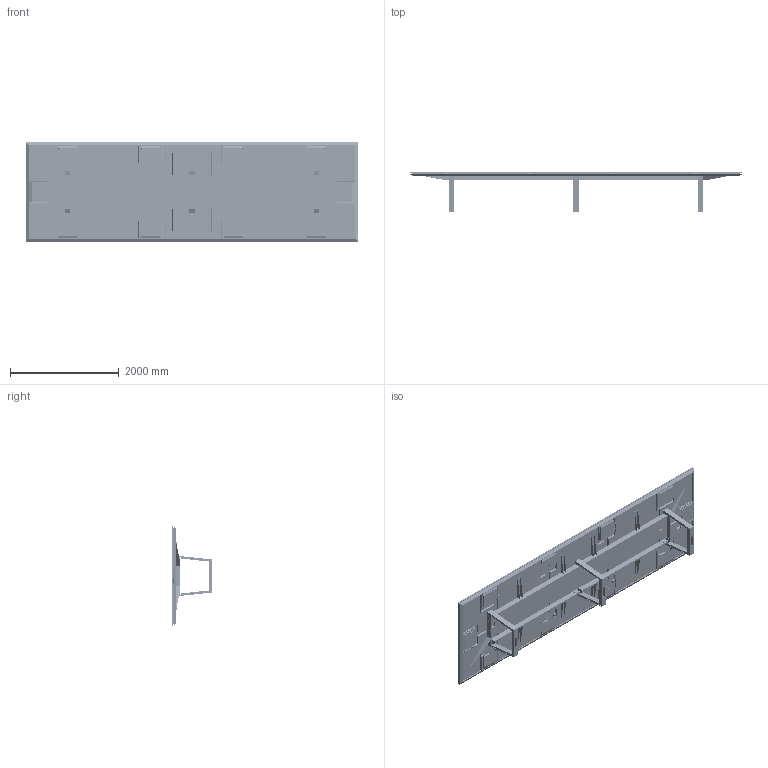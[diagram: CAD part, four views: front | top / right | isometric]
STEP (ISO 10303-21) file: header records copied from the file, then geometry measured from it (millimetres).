
FILE_DESCRIPTION(/* description */ ('','CAx-IF Rec.Pracs.---Representation and Presentation of Product Manufacturing Information (PMI)---4.0---2014-10-13'),/* implementation_level */ '2;1');
FILE_NAME(/* name */ 'TABLE_IMPRESS 6.stp',/* time_stamp */ '2024-12-07T16:03:47-05:00',/* author */ ('mbowman'),/* organization */ (''),/* preprocessor_version */ 'ST-DEVELOPER v19.2',/* originating_system */ 'Autodesk Inventor 2023',/* authorisation */ '');
FILE_SCHEMA (('AP242_MANAGED_MODEL_BASED_3D_ENGINEERING_MIM_LF { 1 0 10303 442 1 1 4 }'));
Products named in the file (62): IMPRESS^TABLE 6_4 PC TOP PWR DRAWERS-SOLID ASSEMBLY; IMPRESS^TABLE 6_4 PC TOP PWR DRAWERS-TOP PARTS SOLID; IMPRESS^16-SHORT-ASHLEY210-ASSEMBLY; R755-305-RIGHT; R755-305-LEFT; IMPRESS^16-SHORT-ASHLEY210-ASSEMBLY_1; R755-305-RIGHT_1; R755-305-LEFT_1; IMPRESS^16-SHORT-ASHLEY210-ASSEMBLY_2; R755-305-RIGHT_2; R755-305-LEFT_2; IMPRESS^16-SHORT-ASHLEY210-ASSEMBLY_3; R755-305-RIGHT_3; R755-305-LEFT_3; IMPRESS^16-SHORT-ASHLEY210-ASSEMBLY_4; R755-305-RIGHT_4; R755-305-LEFT_4; IMPRESS^16-SHORT-ASHLEY210-ASSEMBLY_5; R755-305-RIGHT_5; R755-305-LEFT_5; IMPRESS^16-SHORT-ASHLEY210-ASSEMBLY_6; R755-305-RIGHT_6; R755-305-LEFT_6; IMPRESS^16-SHORT-ASHLEY210-ASSEMBLY_7; R755-305-RIGHT_7; R755-305-LEFT_7; IMPRESS^16-SHORT-ASHLEY210-ASSEMBLY_8; R755-305-RIGHT_8; R755-305-LEFT_8; IMPRESS^16-SHORT-ASHLEY210-ASSEMBLY_9; VGA 35 HDMI; BLANK; 1AA12-009 MA1; VGA; 3AA06-001; SDH15S_Without Mounting Flange and Solder Cups; DGB9F-MA1_GENDER CHANGER; 3AA05-002; 3AB14-020___; 1AM07-031___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
Assembly tree (168 placements, depth 5):
  IMPRESS^TABLE 6_4 PC TOP PWR DRAWERS-SOLID ASSEMBLY
    IMPRESS^TABLE 6_4 PC TOP PWR DRAWERS-TOP PARTS SOLID
    IMPRESS^16-SHORT-ASHLEY210-ASSEMBLY
      VGA 35 HDMI
        BLANK
        1AA12-009 MA1
        VGA
          SDH15S_Without Mounting Flange and Solder Cups  x2
          3AA06-001  x2
          3AA05-002  x2
          DGB9F-MA1_GENDER CHANGER
        3AB14-020___
          1AM07-031___
          1AJ06-031___  x2
          1AJ01-018___
          1AH01-003___
      ASHLEY DUO-2PWR 2 USB
      16-P&D TRAY 04 ASSY-SHORT-ASHLEY210-01.31.24
        16-P&D TRAY 04A-SHORT-ASHLEY210-01.31.24
        16-P&D TRAY 04B-SHORT-ASHLEY210-01.31.24
      16-MTG RAIL 01-ASHLEY210-01.31.24  x2
      IMPRESS^16-ASHLEY 210-POWER DRAWER-WOOD PARTS
      R755-305-RIGHT
        R755-305-RAIL
        R755-305-SLIDE
      R755-305-LEFT
        R755-305-RAIL_LEFT
        R755-305-SLIDE_LEFT
    IMPRESS^16-SHORT-ASHLEY210-ASSEMBLY_1
      VGA 35 HDMI
        BLANK
        1AA12-009 MA1
        VGA
          SDH15S_Without Mounting Flange and Solder Cups  x2
          3AA06-001  x2
          3AA05-002  x2
          DGB9F-MA1_GENDER CHANGER
        3AB14-020___
          1AM07-031___
          1AJ06-031___  x2
          1AJ01-018___
          1AH01-003___
      ASHLEY DUO-2PWR 2 USB
      16-P&D TRAY 04 ASSY-SHORT-ASHLEY210-01.31.24
        16-P&D TRAY 04A-SHORT-ASHLEY210-01.31.24
        16-P&D TRAY 04B-SHORT-ASHLEY210-01.31.24
      16-MTG RAIL 01-ASHLEY210-01.31.24  x2
      IMPRESS^16-ASHLEY 210-POWER DRAWER-WOOD PARTS
      R755-305-RIGHT_1
        R755-305-RAIL
        R755-305-SLIDE
      R755-305-LEFT_1
        R755-305-RAIL_LEFT
        R755-305-SLIDE_LEFT
    IMPRESS^16-SHORT-ASHLEY210-ASSEMBLY_2
      VGA 35 HDMI
        BLANK
        1AA12-009 MA1
        VGA
          SDH15S_Without Mounting Flange and Solder Cups  x2
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Bounding box: 6102.35 x 742.95 x 1835.15 mm (x, y, z)
Volume: 623095609.6 mm3; surface area: 67030601.6 mm2
Topology: 386 solids, 386 shells, 28962 faces, 75862 edges, 49218 vertices
Faces by surface type: plane 19838, cylinder 5154, bspline 2400, cone 960, torus 510, sphere 100
Full cylindrical faces by diameter (mm): 0.991 x300, 2.159 x80, 2.197 x20, 2.261 x160, 2.3 x20, 2.743 x20, 2.794 x40, 3.048 x20, 3.124 x20, 3.175 x20, 3.2 x60, 3.556 x10, 4.762 x40, 4.826 x44, 5.556 x40, 6 x10, 6.35 x520, 6.5 x10, 7.144 x20, 7.5 x10, 7.874 x20, 7.938 x12, 8 x10, 8.3 x10, 8.636 x40, 13.5 x10, 14.859 x10
Entity records: 120338 total; most frequent: CARTESIAN_POINT 32299, ORIENTED_EDGE 16976, DIRECTION 16430, EDGE_CURVE 8488, LINE 6916, VECTOR 6916, VERTEX_POINT 5555, AXIS2_PLACEMENT_3D 4757
